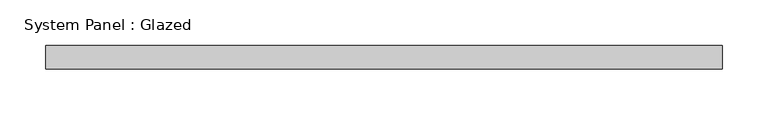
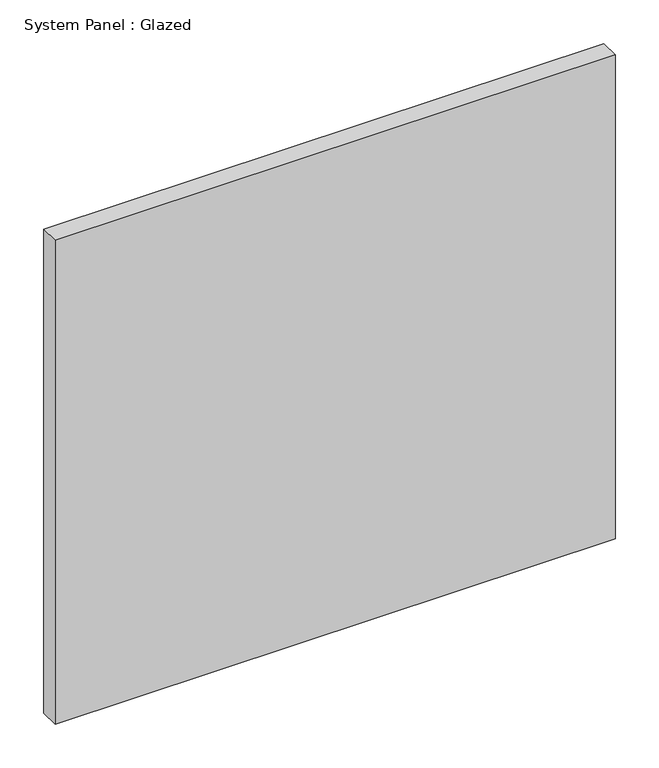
"""IFC4 building model written with IfcOpenShell, lengths in millimetres: plate geometry, System Panel : Glazed."""

from ifc_helpers import new_model, si_unit, origin, origin_with_axes, place, context, project, spatial, polyline, outline, extrude, source, transform, mapped, element, save


def system_panel_glazed_6117aa94(model_context):
    return source(origin(), model_context, "Body", "SweptSolid", [
        extrude(outline(polyline([(368.5261427, 19.05), (-368.5261427, 19.05), (-368.5261427, 44.45), (368.5261427, 44.45), (368.5261427, 19.05)])), origin_with_axes(), (0.0, 0.0, 1.0), 673.1),
    ])


if __name__ == "__main__":
    model = new_model("IFC4")
    model_context = context("Model", 3, world=origin())
    ifc_project = project(units=[si_unit("LENGTHUNIT", "METRE", prefix="MILLI")], contexts=[model_context])
    site = spatial("IfcSite", under=ifc_project)
    building = spatial("IfcBuilding", under=site)
    placement = place(None, origin())
    system_panel_glazed_shape = system_panel_glazed_6117aa94(model_context)
    element("IfcPlate", 1, ObjectType="System Panel : Glazed", at=placement, inside=building, context=model_context, shape_type="MappedRepresentation", body=[
        mapped(system_panel_glazed_shape, transform((0.0, 0.0, 0.0), x_axis=(1.0, 0.0, 0.0), y_axis=(0.0, 1.0, 0.0), z_axis=(0.0, 0.0, 1.0))),
    ])
    save(model, "model.ifc")
